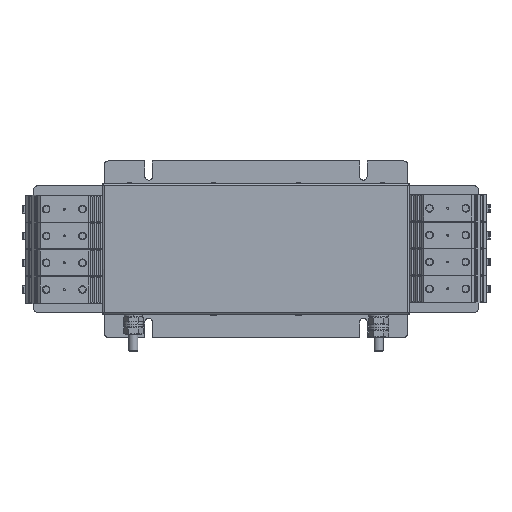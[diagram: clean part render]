
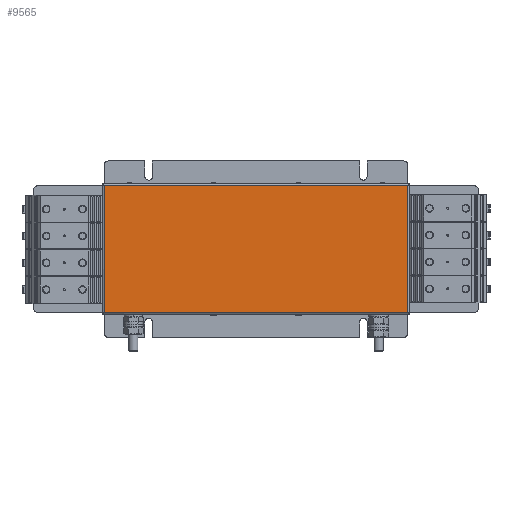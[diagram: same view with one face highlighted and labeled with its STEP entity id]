
A CAD part, top view. The second image highlights one B-rep face of the part: STEP entity #9565.
In plain terms, the highlighted planar face has unit normal (0, 0, 1).
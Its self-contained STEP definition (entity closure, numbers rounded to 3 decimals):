
#1663 = DIRECTION ( 'NONE',  ( 0., 1., 0. ) ) ;
#1681 = DIRECTION ( 'NONE',  ( 0., 0., -1. ) ) ;
#1953 = DIRECTION ( 'NONE',  ( 1., 0., 0. ) ) ;
#2138 = VERTEX_POINT ( 'NONE', #4588 ) ;
#3153 = ORIENTED_EDGE ( 'NONE', *, *, #11588, .T. ) ;
#3253 = DIRECTION ( 'NONE',  ( 0., -1., 0. ) ) ;
#3264 = CARTESIAN_POINT ( 'NONE',  ( -198., -83., 150. ) ) ;
#3327 = EDGE_LOOP ( 'NONE', ( #3153, #10676, #6557, #12871 ) ) ;
#3792 = VERTEX_POINT ( 'NONE', #3264 ) ;
#3861 = LINE ( 'NONE', #8107, #3953 ) ;
#3953 = VECTOR ( 'NONE', #12326, 1000. ) ;
#4223 = VERTEX_POINT ( 'NONE', #6224 ) ;
#4588 = CARTESIAN_POINT ( 'NONE',  ( 198., 83., 150. ) ) ;
#5895 = DIRECTION ( 'NONE',  ( -1., 0., 0. ) ) ;
#6224 = CARTESIAN_POINT ( 'NONE',  ( -198., 83., 150. ) ) ;
#6557 = ORIENTED_EDGE ( 'NONE', *, *, #7823, .T. ) ;
#6924 = LINE ( 'NONE', #11152, #10602 ) ;
#6935 = PLANE ( 'NONE',  #8333 ) ;
#7209 = LINE ( 'NONE', #11441, #9712 ) ;
#7512 = CARTESIAN_POINT ( 'NONE',  ( 198., -83., 150. ) ) ;
#7823 = EDGE_CURVE ( 'NONE', #3792, #9045, #7209, .T. ) ;
#7971 = EDGE_CURVE ( 'NONE', #4223, #3792, #8527, .T. ) ;
#8107 = CARTESIAN_POINT ( 'NONE',  ( 0., 83., 150. ) ) ;
#8333 = AXIS2_PLACEMENT_3D ( 'NONE', #11164, #1681, #5895 ) ;
#8391 = VECTOR ( 'NONE', #3253, 1000. ) ;
#8527 = LINE ( 'NONE', #12738, #8391 ) ;
#9045 = VERTEX_POINT ( 'NONE', #7512 ) ;
#9565 = ADVANCED_FACE ( 'NONE', ( #13239 ), #6935, .F. ) ;
#9712 = VECTOR ( 'NONE', #1953, 1000. ) ;
#10602 = VECTOR ( 'NONE', #1663, 1000. ) ;
#10676 = ORIENTED_EDGE ( 'NONE', *, *, #7971, .T. ) ;
#11152 = CARTESIAN_POINT ( 'NONE',  ( 198., 85., 150. ) ) ;
#11164 = CARTESIAN_POINT ( 'NONE',  ( 0., 0., 150. ) ) ;
#11441 = CARTESIAN_POINT ( 'NONE',  ( 200., -83., 150. ) ) ;
#11543 = EDGE_CURVE ( 'NONE', #9045, #2138, #6924, .T. ) ;
#11588 = EDGE_CURVE ( 'NONE', #2138, #4223, #3861, .T. ) ;
#12326 = DIRECTION ( 'NONE',  ( -1., 0., 0. ) ) ;
#12738 = CARTESIAN_POINT ( 'NONE',  ( -198., 0., 150. ) ) ;
#12871 = ORIENTED_EDGE ( 'NONE', *, *, #11543, .T. ) ;
#13239 = FACE_OUTER_BOUND ( 'NONE', #3327, .T. ) ;
